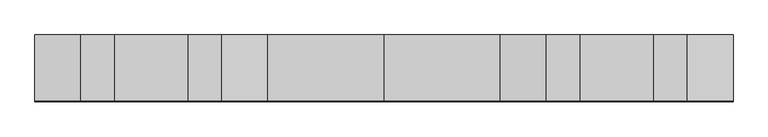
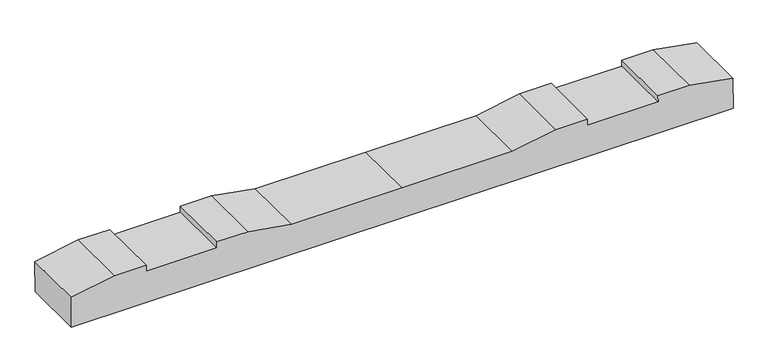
"""IFC4 building model written with IfcOpenShell, lengths in millimetres: proxy geometry, 轨枕-立面角度 : 轨枕-立面角度."""

from ifc_helpers import new_model, si_unit, frame, origin, place, context, project, spatial, polyline, outline, extrude, source, transform, mapped, element, save


def generic_models_c67f2c29(model_context):
    return source(origin(), model_context, "Body", "SweptSolid", [
        extrude(outline(polyline([(0.0, 0.0), (0.0, -100.020689), (-137.8834664, -124.5), (-237.8834664, -124.5), (-237.8834664, -104.5), (-461.8834664, -104.5), (-461.8834664, -124.5), (-561.8834664, -124.5), (-699.8834664, -100.0), (-1049.8834664, -100.0), (-1399.8834664, -100.0), (-1537.8834664, -124.5), (-1637.8834664, -124.5), (-1637.8834664, -104.5), (-1861.8834664, -104.5), (-1861.8834664, -124.5), (-1961.8834664, -124.5), (-2099.7669328, -100.020689), (-2099.7669328, 0.0), (0.0, 0.0)])), frame((-1049.8834664, 99.3943354, -105.0762394), z_axis=(0.0, -0.9999832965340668, 0.005779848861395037), x_axis=(-1.0, 0.0, 0.0)), (0.0, 0.0, 1.0), 200.0),
    ])


if __name__ == "__main__":
    model = new_model("IFC4")
    model_context = context("Model", 3, world=origin())
    ifc_project = project(units=[si_unit("LENGTHUNIT", "METRE", prefix="MILLI")], contexts=[model_context])
    site = spatial("IfcSite", under=ifc_project)
    building = spatial("IfcBuilding", under=site)
    placement = place(None, origin())
    generic_models_shape = generic_models_c67f2c29(model_context)
    element("IfcBuildingElementProxy", 1, Name="轨枕-立面角度 : 轨枕-立面角度", ObjectType="轨枕-立面角度 : 轨枕-立面角度", at=placement, inside=building, context=model_context, shape_type="MappedRepresentation", body=[
        mapped(generic_models_shape, transform((0.0, 0.0, 0.0), x_axis=(1.0, 0.0, 0.0), y_axis=(0.0, 1.0, 0.0), z_axis=(0.0, 0.0, 1.0))),
    ])
    save(model, "model.ifc")
